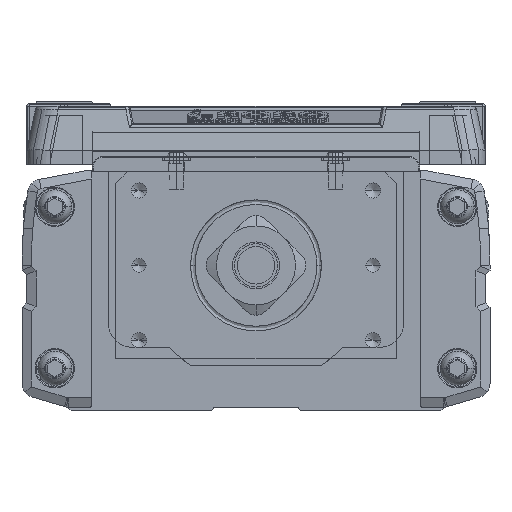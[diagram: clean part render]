
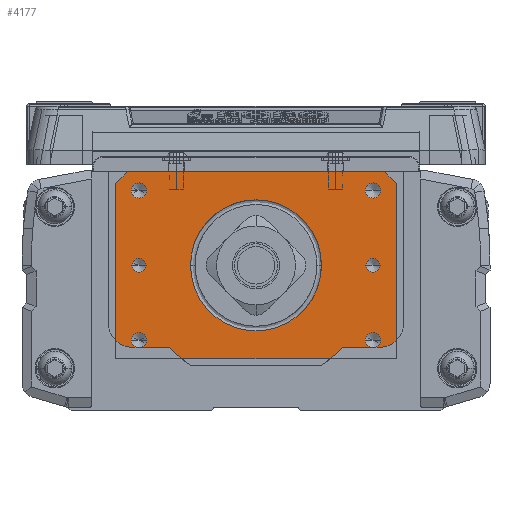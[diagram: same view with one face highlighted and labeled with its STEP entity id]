
A CAD part, left-side view. The second image highlights one B-rep face of the part: STEP entity #4177.
In plain terms, the highlighted planar face has unit normal (-1, 0, 0).
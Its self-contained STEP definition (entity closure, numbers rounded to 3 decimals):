
#4177=ADVANCED_FACE('',(#9563,#9564,#9565,#9566,#9567,#9568,#9569,#9570),#9571,.T.);
#9563=FACE_BOUND('',#16606,.T.);
#9564=FACE_BOUND('',#16607,.T.);
#9565=FACE_BOUND('',#16608,.T.);
#9566=FACE_BOUND('',#16609,.T.);
#9567=FACE_BOUND('',#16610,.T.);
#9568=FACE_BOUND('',#16611,.T.);
#9569=FACE_BOUND('',#16612,.T.);
#9570=FACE_OUTER_BOUND('',#16613,.T.);
#9571=PLANE('',#16614);
#16606=EDGE_LOOP('',(#28624,#28625));
#16607=EDGE_LOOP('',(#28626,#28627));
#16608=EDGE_LOOP('',(#28628,#28629));
#16609=EDGE_LOOP('',(#28630,#28631));
#16610=EDGE_LOOP('',(#28632,#28633));
#16611=EDGE_LOOP('',(#28634,#28635));
#16612=EDGE_LOOP('',(#28636,#28637,#28638));
#16613=EDGE_LOOP('',(#28639,#28640,#28641,#28642,#28643,#28644));
#16614=AXIS2_PLACEMENT_3D('',#28645,#28646,#28647);
#28624=ORIENTED_EDGE('',*,*,#40901,.T.);
#28625=ORIENTED_EDGE('',*,*,#40665,.T.);
#28626=ORIENTED_EDGE('',*,*,#44139,.T.);
#28627=ORIENTED_EDGE('',*,*,#44140,.T.);
#28628=ORIENTED_EDGE('',*,*,#43987,.T.);
#28629=ORIENTED_EDGE('',*,*,#42567,.T.);
#28630=ORIENTED_EDGE('',*,*,#44141,.T.);
#28631=ORIENTED_EDGE('',*,*,#44142,.T.);
#28632=ORIENTED_EDGE('',*,*,#40939,.T.);
#28633=ORIENTED_EDGE('',*,*,#43322,.T.);
#28634=ORIENTED_EDGE('',*,*,#44143,.T.);
#28635=ORIENTED_EDGE('',*,*,#44144,.T.);
#28636=ORIENTED_EDGE('',*,*,#42520,.T.);
#28637=ORIENTED_EDGE('',*,*,#41278,.T.);
#28638=ORIENTED_EDGE('',*,*,#42521,.T.);
#28639=ORIENTED_EDGE('',*,*,#42850,.F.);
#28640=ORIENTED_EDGE('',*,*,#42543,.F.);
#28641=ORIENTED_EDGE('',*,*,#44145,.T.);
#28642=ORIENTED_EDGE('',*,*,#44146,.T.);
#28643=ORIENTED_EDGE('',*,*,#44147,.F.);
#28644=ORIENTED_EDGE('',*,*,#44148,.T.);
#28645=CARTESIAN_POINT('',(-580.,0.,-20.));
#28646=DIRECTION('',(-1.0,0.,0.));
#28647=DIRECTION('',(0.,-1.0,0.));
#40665=EDGE_CURVE('',#48977,#48974,#48978,.T.);
#40901=EDGE_CURVE('',#48974,#48977,#49395,.T.);
#40939=EDGE_CURVE('',#49454,#49459,#49461,.T.);
#41278=EDGE_CURVE('',#50038,#50042,#50044,.T.);
#42520=EDGE_CURVE('',#52040,#50038,#52041,.T.);
#42521=EDGE_CURVE('',#50042,#52040,#52042,.T.);
#42543=EDGE_CURVE('',#52077,#52073,#52079,.T.);
#42567=EDGE_CURVE('',#52112,#52109,#52113,.T.);
#42850=EDGE_CURVE('',#52073,#52581,#52582,.T.);
#43322=EDGE_CURVE('',#49459,#49454,#53317,.T.);
#43987=EDGE_CURVE('',#52109,#52112,#54293,.T.);
#44139=EDGE_CURVE('',#54499,#54500,#54501,.T.);
#44140=EDGE_CURVE('',#54500,#54499,#54502,.T.);
#44141=EDGE_CURVE('',#54503,#54504,#54505,.T.);
#44142=EDGE_CURVE('',#54504,#54503,#54506,.T.);
#44143=EDGE_CURVE('',#54507,#54508,#54509,.T.);
#44144=EDGE_CURVE('',#54508,#54507,#54510,.T.);
#44145=EDGE_CURVE('',#52077,#54511,#54512,.T.);
#44146=EDGE_CURVE('',#54511,#54513,#54514,.T.);
#44147=EDGE_CURVE('',#54515,#54513,#54516,.T.);
#44148=EDGE_CURVE('',#54515,#52581,#54517,.T.);
#48974=VERTEX_POINT('',#60709);
#48977=VERTEX_POINT('',#60713);
#48978=CIRCLE('',#60714,1.5);
#49395=CIRCLE('',#61265,1.5);
#49454=VERTEX_POINT('',#61340);
#49459=VERTEX_POINT('',#61346);
#49461=CIRCLE('',#61349,1.65);
#50038=VERTEX_POINT('',#62157);
#50042=VERTEX_POINT('',#62161);
#50044=CIRCLE('',#62163,14.0);
#52040=VERTEX_POINT('',#64836);
#52041=CIRCLE('',#64837,14.0);
#52042=CIRCLE('',#64838,14.0);
#52073=VERTEX_POINT('',#64877);
#52077=VERTEX_POINT('',#64883);
#52079=LINE('',#64886,#64887);
#52109=VERTEX_POINT('',#64923);
#52112=VERTEX_POINT('',#64927);
#52113=CIRCLE('',#64928,1.65);
#52581=VERTEX_POINT('',#65635);
#52582=LINE('',#65636,#65637);
#53317=CIRCLE('',#66610,1.65);
#54293=CIRCLE('',#68086,1.65);
#54499=VERTEX_POINT('',#68360);
#54500=VERTEX_POINT('',#68361);
#54501=CIRCLE('',#68362,1.5);
#54502=CIRCLE('',#68363,1.5);
#54503=VERTEX_POINT('',#68364);
#54504=VERTEX_POINT('',#68365);
#54505=CIRCLE('',#68366,1.65);
#54506=CIRCLE('',#68367,1.65);
#54507=VERTEX_POINT('',#68368);
#54508=VERTEX_POINT('',#68369);
#54509=CIRCLE('',#68370,1.65);
#54510=CIRCLE('',#68371,1.65);
#54511=VERTEX_POINT('',#68372);
#54512=LINE('',#68373,#68374);
#54513=VERTEX_POINT('',#68375);
#54514=LINE('',#68376,#68377);
#54515=VERTEX_POINT('',#68378);
#54516=LINE('',#68379,#68380);
#54517=LINE('',#68381,#68382);
#60709=CARTESIAN_POINT('',(-580.,-26.5,0.));
#60713=CARTESIAN_POINT('',(-580.,-23.5,0.));
#60714=AXIS2_PLACEMENT_3D('',#75241,#75242,#75243);
#61265=AXIS2_PLACEMENT_3D('',#75657,#75658,#75659);
#61340=CARTESIAN_POINT('',(-580.,26.65,16.));
#61346=CARTESIAN_POINT('',(-580.,23.35,16.));
#61349=AXIS2_PLACEMENT_3D('',#75711,#75712,#75713);
#62157=CARTESIAN_POINT('',(-580.,14.,0.));
#62161=CARTESIAN_POINT('',(-580.,-14.,0.));
#62163=AXIS2_PLACEMENT_3D('',#76184,#76185,#76186);
#64836=CARTESIAN_POINT('',(-580.,0.,-14.));
#64837=AXIS2_PLACEMENT_3D('',#77952,#77953,#77954);
#64838=AXIS2_PLACEMENT_3D('',#77955,#77956,#77957);
#64877=CARTESIAN_POINT('',(-580.,30.,17.5));
#64883=CARTESIAN_POINT('',(-580.,30.,-20.));
#64886=CARTESIAN_POINT('',(-580.,30.,-20.));
#64887=VECTOR('',#77987,10.0);
#64923=CARTESIAN_POINT('',(-580.,-26.65,-16.));
#64927=CARTESIAN_POINT('',(-580.,-23.35,-16.));
#64928=AXIS2_PLACEMENT_3D('',#78022,#78023,#78024);
#65635=CARTESIAN_POINT('',(-580.,27.5,20.));
#65636=CARTESIAN_POINT('',(-580.,31.25,16.25));
#65637=VECTOR('',#78469,10.);
#66610=AXIS2_PLACEMENT_3D('',#79134,#79135,#79136);
#68086=AXIS2_PLACEMENT_3D('',#79949,#79950,#79951);
#68360=CARTESIAN_POINT('',(-580.,26.5,0.));
#68361=CARTESIAN_POINT('',(-580.,23.5,0.));
#68362=AXIS2_PLACEMENT_3D('',#80142,#80143,#80144);
#68363=AXIS2_PLACEMENT_3D('',#80145,#80146,#80147);
#68364=CARTESIAN_POINT('',(-580.,26.65,-16.));
#68365=CARTESIAN_POINT('',(-580.,23.35,-16.));
#68366=AXIS2_PLACEMENT_3D('',#80148,#80149,#80150);
#68367=AXIS2_PLACEMENT_3D('',#80151,#80152,#80153);
#68368=CARTESIAN_POINT('',(-580.,-26.65,16.));
#68369=CARTESIAN_POINT('',(-580.,-23.35,16.));
#68370=AXIS2_PLACEMENT_3D('',#80154,#80155,#80156);
#68371=AXIS2_PLACEMENT_3D('',#80157,#80158,#80159);
#68372=CARTESIAN_POINT('',(-580.,-30.,-20.));
#68373=CARTESIAN_POINT('',(-580.,30.,-20.));
#68374=VECTOR('',#80160,10.0);
#68375=CARTESIAN_POINT('',(-580.,-30.,17.5));
#68376=CARTESIAN_POINT('',(-580.,-30.,-20.));
#68377=VECTOR('',#80161,10.0);
#68378=CARTESIAN_POINT('',(-580.,-27.5,20.));
#68379=CARTESIAN_POINT('',(-580.,-31.25,16.25));
#68380=VECTOR('',#80162,10.);
#68381=CARTESIAN_POINT('',(-580.,30.,20.));
#68382=VECTOR('',#80163,10.0);
#75241=CARTESIAN_POINT('',(-580.,-25.,0.));
#75242=DIRECTION('',(1.0,0.,0.));
#75243=DIRECTION('',(0.,-1.0,0.));
#75657=CARTESIAN_POINT('',(-580.,-25.,0.));
#75658=DIRECTION('',(1.0,0.,0.));
#75659=DIRECTION('',(0.,-1.0,0.));
#75711=CARTESIAN_POINT('',(-580.,25.,16.));
#75712=DIRECTION('',(1.0,0.,0.));
#75713=DIRECTION('',(0.,1.0,0.));
#76184=CARTESIAN_POINT('',(-580.,0.,0.));
#76185=DIRECTION('',(1.0,0.,0.));
#76186=DIRECTION('',(0.,0.,1.0));
#77952=CARTESIAN_POINT('',(-580.,0.,0.));
#77953=DIRECTION('',(1.0,0.,0.));
#77954=DIRECTION('',(0.,0.,1.0));
#77955=CARTESIAN_POINT('',(-580.,0.,0.));
#77956=DIRECTION('',(1.0,0.,0.));
#77957=DIRECTION('',(0.,0.,1.0));
#77987=DIRECTION('',(0.,0.,1.0));
#78022=CARTESIAN_POINT('',(-580.,-25.,-16.));
#78023=DIRECTION('',(1.0,0.,0.));
#78024=DIRECTION('',(0.,-1.0,0.));
#78469=DIRECTION('',(0.,-0.707,0.707));
#79134=CARTESIAN_POINT('',(-580.,25.,16.));
#79135=DIRECTION('',(1.0,0.,0.));
#79136=DIRECTION('',(0.,1.0,0.));
#79949=CARTESIAN_POINT('',(-580.,-25.,-16.));
#79950=DIRECTION('',(1.0,0.,0.));
#79951=DIRECTION('',(0.,-1.0,0.));
#80142=CARTESIAN_POINT('',(-580.,25.,0.));
#80143=DIRECTION('',(1.0,0.,0.));
#80144=DIRECTION('',(0.,1.0,0.));
#80145=CARTESIAN_POINT('',(-580.,25.,0.));
#80146=DIRECTION('',(1.0,0.,0.));
#80147=DIRECTION('',(0.,1.0,0.));
#80148=CARTESIAN_POINT('',(-580.,25.,-16.));
#80149=DIRECTION('',(1.0,0.,0.));
#80150=DIRECTION('',(0.,1.0,0.));
#80151=CARTESIAN_POINT('',(-580.,25.,-16.));
#80152=DIRECTION('',(1.0,0.,0.));
#80153=DIRECTION('',(0.,1.0,0.));
#80154=CARTESIAN_POINT('',(-580.,-25.,16.));
#80155=DIRECTION('',(1.0,0.,0.));
#80156=DIRECTION('',(0.,-1.0,0.));
#80157=CARTESIAN_POINT('',(-580.,-25.,16.));
#80158=DIRECTION('',(1.0,0.,0.));
#80159=DIRECTION('',(0.,-1.0,0.));
#80160=DIRECTION('',(0.,-1.0,0.));
#80161=DIRECTION('',(0.,0.,1.0));
#80162=DIRECTION('',(0.0,-0.707,-0.707));
#80163=DIRECTION('',(0.,1.0,0.));
